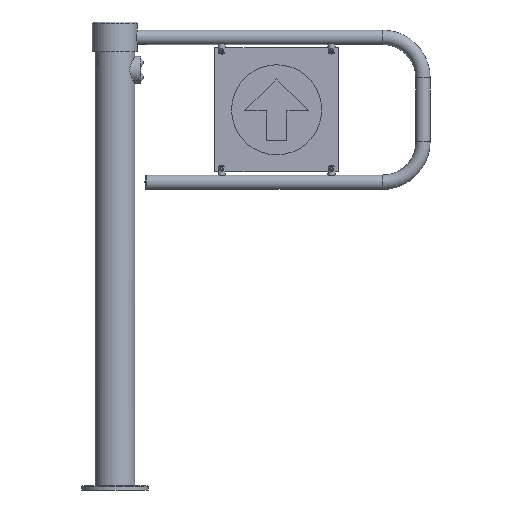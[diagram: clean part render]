
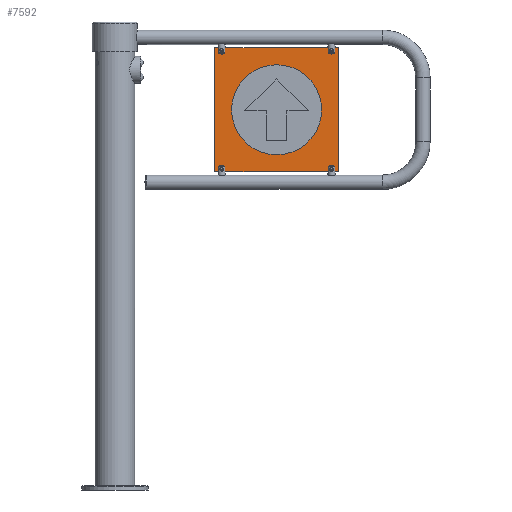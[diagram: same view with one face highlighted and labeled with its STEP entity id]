
A CAD part, front view. The second image highlights one B-rep face of the part: STEP entity #7592.
In plain terms, the highlighted planar face has unit normal (0, -1, 0) as drawn and (0, 0, 1) by its records, which use the part's own axes.
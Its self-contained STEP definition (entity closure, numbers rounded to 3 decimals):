
#331=PLANE('',#8235);
#632=LINE('',#11538,#889);
#634=LINE('',#11542,#891);
#638=LINE('',#11551,#895);
#642=LINE('',#11560,#899);
#889=VECTOR('',#9317,1000.);
#891=VECTOR('',#9321,1000.);
#895=VECTOR('',#9327,1000.);
#899=VECTOR('',#9333,1000.);
#1543=ORIENTED_EDGE('',*,*,#2877,.F.);
#1544=ORIENTED_EDGE('',*,*,#2863,.T.);
#1545=ORIENTED_EDGE('',*,*,#2878,.T.);
#1546=ORIENTED_EDGE('',*,*,#2865,.T.);
#1547=ORIENTED_EDGE('',*,*,#2879,.T.);
#1548=ORIENTED_EDGE('',*,*,#2869,.T.);
#1549=ORIENTED_EDGE('',*,*,#2880,.T.);
#1550=ORIENTED_EDGE('',*,*,#2873,.T.);
#1551=ORIENTED_EDGE('',*,*,#2881,.T.);
#2863=EDGE_CURVE('',#3604,#3603,#632,.T.);
#2865=EDGE_CURVE('',#3605,#3606,#634,.T.);
#2869=EDGE_CURVE('',#3609,#3610,#638,.T.);
#2873=EDGE_CURVE('',#3613,#3614,#642,.T.);
#2877=EDGE_CURVE('',#3617,#3617,#4119,.T.);
#2878=EDGE_CURVE('',#3603,#3605,#4120,.F.);
#2879=EDGE_CURVE('',#3606,#3609,#4121,.F.);
#2880=EDGE_CURVE('',#3610,#3613,#4122,.F.);
#2881=EDGE_CURVE('',#3614,#3604,#4123,.F.);
#3603=VERTEX_POINT('',#11537);
#3604=VERTEX_POINT('',#11539);
#3605=VERTEX_POINT('',#11543);
#3606=VERTEX_POINT('',#11544);
#3609=VERTEX_POINT('',#11552);
#3610=VERTEX_POINT('',#11553);
#3613=VERTEX_POINT('',#11561);
#3614=VERTEX_POINT('',#11562);
#3617=VERTEX_POINT('',#11570);
#4119=CIRCLE('',#8236,100.);
#4120=CIRCLE('',#8237,1.);
#4121=CIRCLE('',#8238,1.);
#4122=CIRCLE('',#8239,1.);
#4123=CIRCLE('',#8240,1.);
#4611=EDGE_LOOP('',(#1543));
#4612=EDGE_LOOP('',(#1544,#1545,#1546,#1547,#1548,#1549,#1550,#1551));
#5258=FACE_BOUND('',#4611,.T.);
#5259=FACE_BOUND('',#4612,.T.);
#7592=ADVANCED_FACE('',(#5258,#5259),#331,.F.);
#8235=AXIS2_PLACEMENT_3D('',#11568,#9337,#9338);
#8236=AXIS2_PLACEMENT_3D('',#11569,#9339,#9340);
#8237=AXIS2_PLACEMENT_3D('',#11571,#9341,#9342);
#8238=AXIS2_PLACEMENT_3D('',#11572,#9343,#9344);
#8239=AXIS2_PLACEMENT_3D('',#11573,#9345,#9346);
#8240=AXIS2_PLACEMENT_3D('',#11574,#9347,#9348);
#9317=DIRECTION('',(0.,1.,0.));
#9321=DIRECTION('',(-1.,0.,0.));
#9327=DIRECTION('',(0.,-1.,0.));
#9333=DIRECTION('',(1.,0.,0.));
#9337=DIRECTION('',(0.,0.,-1.));
#9338=DIRECTION('',(-1.,0.,0.));
#9339=DIRECTION('',(0.,0.,1.));
#9340=DIRECTION('',(1.,0.,0.));
#9341=DIRECTION('',(0.,0.,-1.));
#9342=DIRECTION('',(-1.,0.,0.));
#9343=DIRECTION('',(0.,0.,-1.));
#9344=DIRECTION('',(-1.,0.,0.));
#9345=DIRECTION('',(0.,0.,-1.));
#9346=DIRECTION('',(-1.,0.,0.));
#9347=DIRECTION('',(0.,0.,-1.));
#9348=DIRECTION('',(-1.,0.,0.));
#11537=CARTESIAN_POINT('',(138.,137.,3.));
#11538=CARTESIAN_POINT('',(138.,-138.,3.));
#11539=CARTESIAN_POINT('',(138.,-137.,3.));
#11542=CARTESIAN_POINT('',(-138.,138.,3.));
#11543=CARTESIAN_POINT('',(137.,138.,3.));
#11544=CARTESIAN_POINT('',(-137.,138.,3.));
#11551=CARTESIAN_POINT('',(-138.,-138.,3.));
#11552=CARTESIAN_POINT('',(-138.,137.,3.));
#11553=CARTESIAN_POINT('',(-138.,-137.,3.));
#11560=CARTESIAN_POINT('',(-138.,-138.,3.));
#11561=CARTESIAN_POINT('',(-137.,-138.,3.));
#11562=CARTESIAN_POINT('',(137.,-138.,3.));
#11568=CARTESIAN_POINT('',(138.,138.,3.));
#11569=CARTESIAN_POINT('',(0.,0.,3.));
#11570=CARTESIAN_POINT('',(100.,0.,3.));
#11571=CARTESIAN_POINT('',(137.,137.,3.));
#11572=CARTESIAN_POINT('',(-137.,137.,3.));
#11573=CARTESIAN_POINT('',(-137.,-137.,3.));
#11574=CARTESIAN_POINT('',(137.,-137.,3.));
